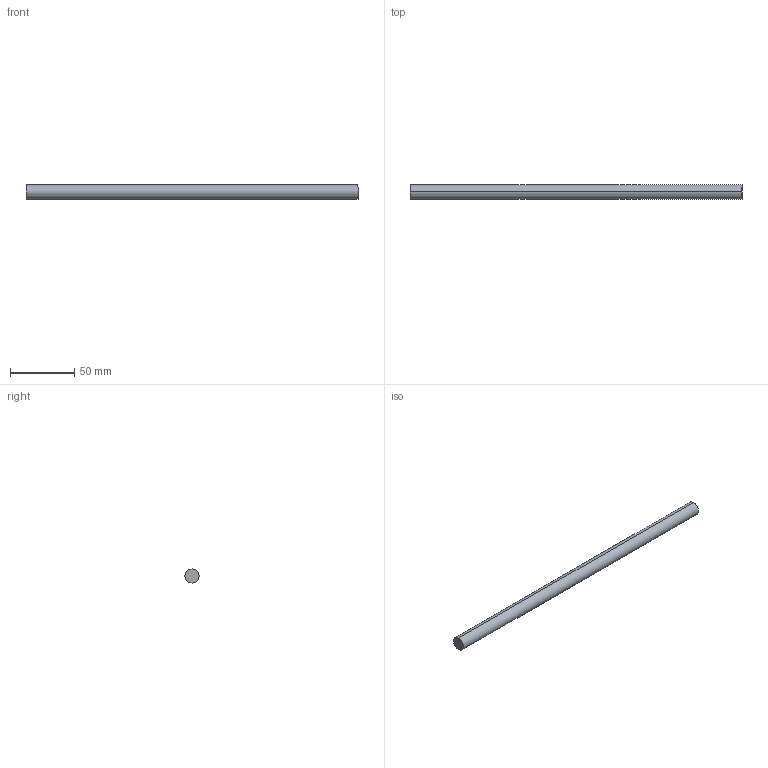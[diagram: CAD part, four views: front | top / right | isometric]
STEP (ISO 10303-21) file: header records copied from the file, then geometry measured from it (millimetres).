
FILE_DESCRIPTION (( 'STEP AP214' ), '1' );
FILE_NAME ('Querreling_Frontblende_Innenlade_KS19_KAB-350.step', '2010-09-22T15:05:32', ( 'grass' ), ( '' ), 'SwSTEP 2.0', 'SolidWorks 2010', '' );
FILE_SCHEMA (( 'AUTOMOTIVE_DESIGN' ));
Length unit declared in the file: millimetre
Products named in the file (1): Querreling_Frontblende_Innenlade_KS19_KAB-350
Bounding box: 259 x 11 x 11 mm (x, y, z)
Volume: 24613.6 mm3; surface area: 9140.5 mm2
Topology: 1 solids, 1 shells, 4 faces, 6 edges, 4 vertices
Faces by surface type: cylinder 2, plane 2
Entity records: 128 total; most frequent: DIRECTION 20, CARTESIAN_POINT 15, ORIENTED_EDGE 12, AXIS2_PLACEMENT_3D 9, EDGE_CURVE 6, VERTEX_POINT 4, ADVANCED_FACE 4, CIRCLE 4
